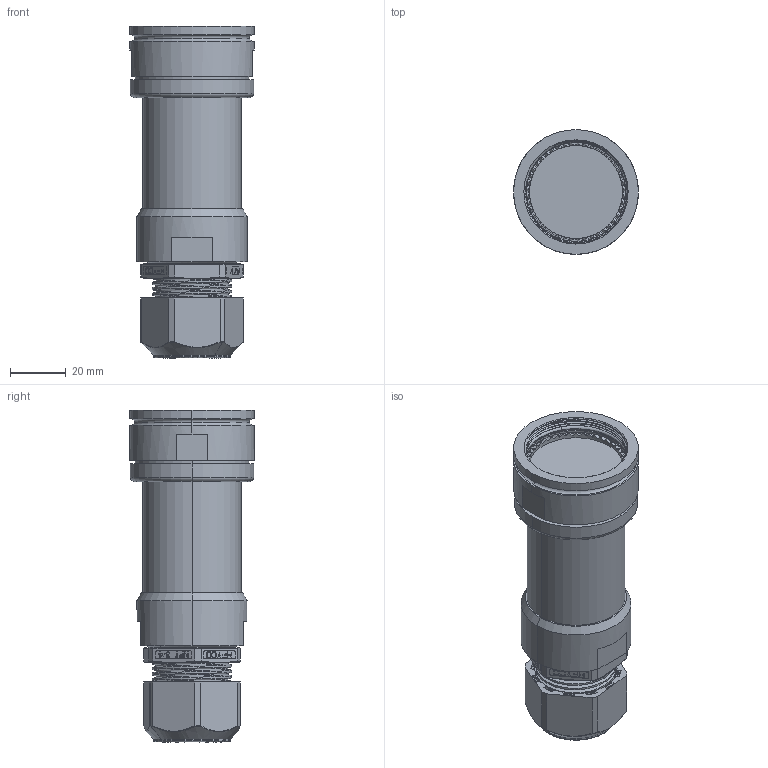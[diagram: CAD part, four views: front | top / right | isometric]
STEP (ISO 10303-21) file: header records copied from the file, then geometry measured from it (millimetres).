
FILE_DESCRIPTION (( 'STEP AP214' ), '1' );
FILE_NAME ('Q38SHELL-STX-25-XXXX-GL.STEP', '2025-09-09T22:44:08', ( '' ), ( '' ), 'SwSTEP 2.0', 'SolidWorks 2024', '' );
FILE_SCHEMA (( 'AUTOMOTIVE_DESIGN' ));
Length unit declared in the file: millimetre
Products named in the file (1): Q38SHELL-STX-25-XXXX-GL
Bounding box: 44.88 x 44.88 x 119.43 mm (x, y, z)
Surface area: 37814.1 mm2 (no closed solid volume)
Topology: 0 solids, 8 shells, 1395 faces, 3755 edges, 2430 vertices
Faces by surface type: plane 756, cylinder 237, bspline 140, torus 123, cone 119, sphere 20
Entity records: 64641 total; most frequent: CARTESIAN_POINT 36522, ORIENTED_EDGE 7461, EDGE_CURVE 3755, DIRECTION 3445, B_SPLINE_CURVE_WITH_KNOTS 2833, VERTEX_POINT 2430, AXIS2_PLACEMENT_3D 1568, EDGE_LOOP 1465
